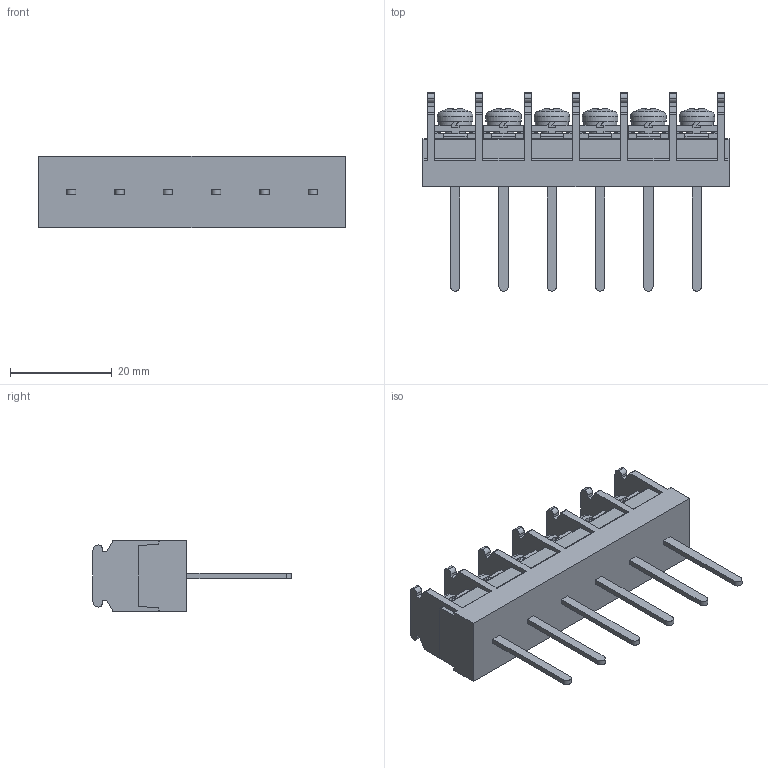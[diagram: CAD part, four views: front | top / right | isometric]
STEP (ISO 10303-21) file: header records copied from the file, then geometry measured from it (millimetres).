
FILE_DESCRIPTION(/* description */ ('Alibre Inc.'),/* implementation_level */ '2;1');
FILE_NAME(/* name */ 'export-40B45F9D-4CD3-4FAE-9B72-B2450D9842F8',/* time_stamp */ '2021-02-13T15:13:37+09:00',/* author */ (''),/* organization */ (''),/* preprocessor_version */ 'ST-DEVELOPER v17',/* originating_system */ 'Alibre',/* authorisation */ '');
FILE_SCHEMA (('CONFIG_CONTROL_DESIGN'));
Length unit declared in the file: millimetre
Bounding box: 60.2 x 39 x 14 mm (x, y, z)
Volume: 10397.1 mm3; surface area: 7585.5 mm2
Topology: 1 solids, 23 shells, 1104 faces, 3072 edges, 2022 vertices
Faces by surface type: plane 816, cylinder 136, bspline 104, cone 30, torus 12, sphere 6
Full cylindrical faces by diameter (mm): 4 x12, 7 x6
Entity records: 33773 total; most frequent: CARTESIAN_POINT 7138, ORIENTED_EDGE 6048, DIRECTION 4288, EDGE_CURVE 3024, VECTOR 2220, LINE 2220, VERTEX_POINT 2010, AXIS2_PLACEMENT_3D 1420
